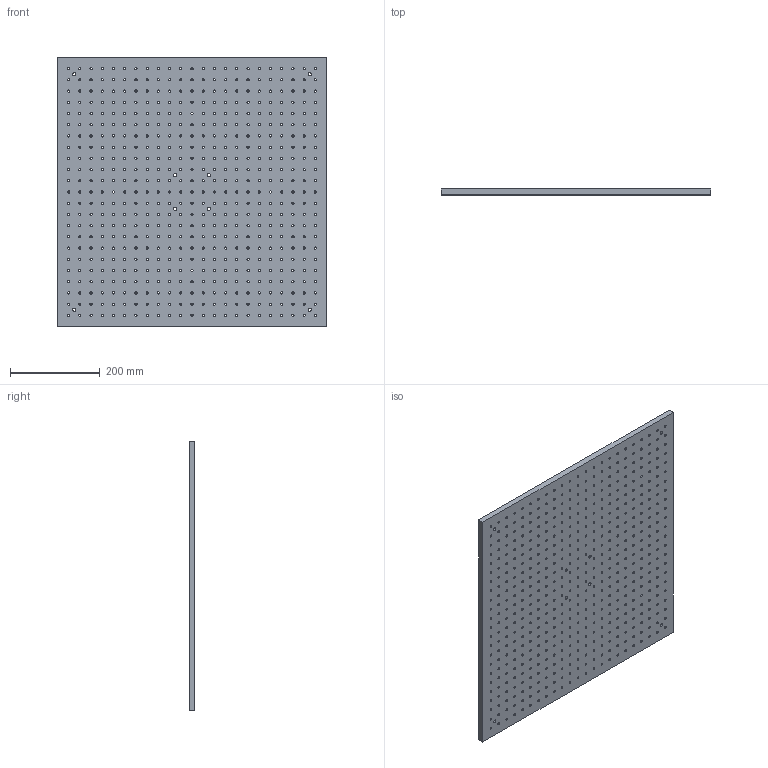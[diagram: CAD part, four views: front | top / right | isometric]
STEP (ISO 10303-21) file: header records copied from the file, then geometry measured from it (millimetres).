
FILE_DESCRIPTION (( 'STEP AP203' ), '1' );
FILE_NAME ('OTSB6060-13(AP203).STEP', '2022-02-28T09:20:16', ( '' ), ( '' ), 'SwSTEP 2.0', 'SolidWorks 2021', '' );
FILE_SCHEMA (( 'CONFIG_CONTROL_DESIGN' ));
Length unit declared in the file: millimetre
Products named in the file (1): OTSB6060-13(AP203)
Bounding box: 600 x 13.05 x 600 mm (x, y, z)
Volume: 4537816.8 mm3; surface area: 841460 mm2
Topology: 11 solids, 11 shells, 1264 faces, 3702 edges, 2468 vertices
Faces by surface type: cylinder 1090, plane 174
Entity records: 45411 total; most frequent: DIRECTION 8412, CARTESIAN_POINT 7435, ORIENTED_EDGE 7404, EDGE_CURVE 3702, AXIS2_PLACEMENT_3D 3445, VERTEX_POINT 2468, EDGE_LOOP 2346, CIRCLE 2180
